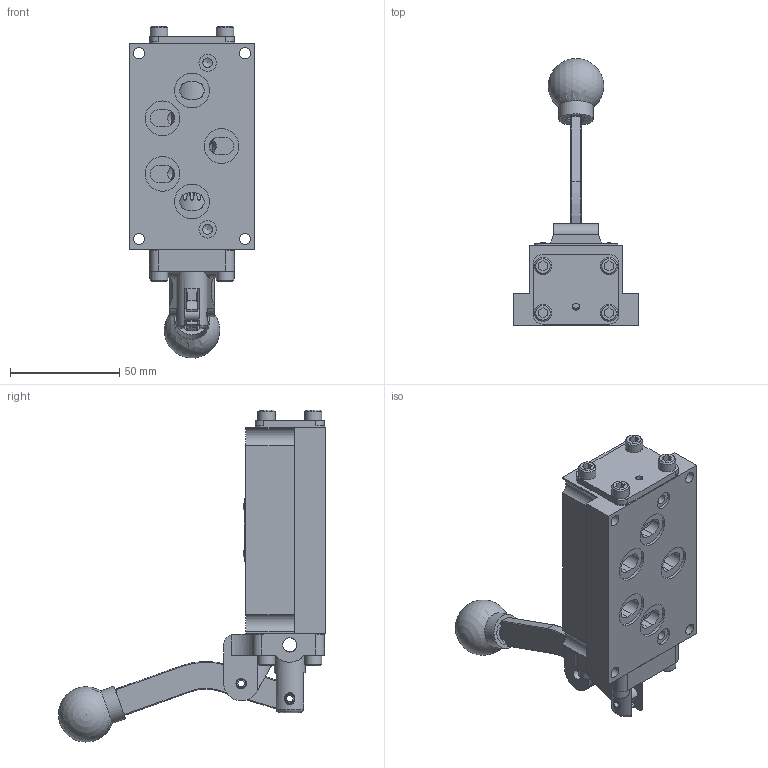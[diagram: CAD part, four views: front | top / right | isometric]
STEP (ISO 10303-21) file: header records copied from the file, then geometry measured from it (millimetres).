
FILE_DESCRIPTION(/* description */ (''),/* implementation_level */ '2;1');
FILE_NAME(/* name */ 'D:\Engineering\Product\valves\Assembly\lever\HO\stp\HO3PCLO.stp',/* time_stamp */ '2022-06-01T18:50:24-04:00',/* author */ ('RMcKenna'),/* organization */ (''),/* preprocessor_version */ 'ST-DEVELOPER v18.1',/* originating_system */ 'Autodesk Inventor 2021',/* authorisation */ '');
FILE_SCHEMA (('AUTOMOTIVE_DESIGN { 1 0 10303 214 3 1 1 }'));
Length unit declared in the file: centimetre
Products named in the file (1): Part50
Bounding box: 57.15 x 122.14 x 151.79 mm (x, y, z)
Volume: 180953.4 mm3; surface area: 60525.4 mm2
Topology: 1 solids, 30 shells, 983 faces, 2360 edges, 1498 vertices
Faces by surface type: plane 393, cone 231, cylinder 227, torus 93, bspline 36, sphere 3
Full cylindrical faces by diameter (mm): 2.07 x2, 2.261 x2, 2.778 x2, 3.175 x3, 3.683 x8, 3.861 x2, 4.366 x2, 4.369 x3, 4.75 x2, 4.763 x2, 4.826 x8, 4.978 x4, 5.055 x1, 5.156 x8, 5.159 x4, 6.528 x3, 7.798 x1, 7.925 x2, 7.938 x8, 8.153 x1, 9.922 x1, 11.113 x1, 11.303 x2, 14.275 x1, 15.596 x1, 15.748 x1, 15.875 x5, 18.618 x2, 18.745 x12, 19.177 x2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
Entity records: 32461 total; most frequent: CARTESIAN_POINT 8629, DIRECTION 4774, ORIENTED_EDGE 4678, EDGE_CURVE 2339, AXIS2_PLACEMENT_3D 1843, VERTEX_POINT 1498, EDGE_LOOP 1133, LINE 1088
